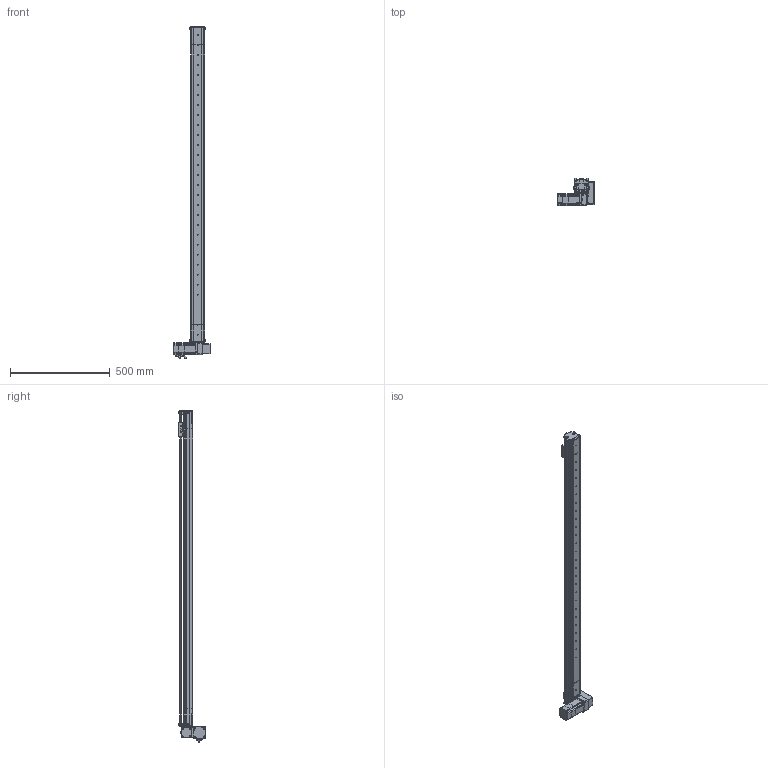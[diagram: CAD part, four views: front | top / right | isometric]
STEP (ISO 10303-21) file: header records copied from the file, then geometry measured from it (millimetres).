
FILE_DESCRIPTION (( 'STEP AP214' ), '1' );
FILE_NAME ('S07 TBN LU S1400.STEP', '2010-06-29T12:06:47', ( 'Conseil Régional Haute-Normandie' ), ( 'Conseil Régional Haute-Normandie' ), 'SwSTEP 2.0', 'SolidWorks 2010', '' );
FILE_SCHEMA (( 'AUTOMOTIVE_DESIGN' ));
Length unit declared in the file: millimetre
Products named in the file (41): Poulie head_Default; P3 90A_Default; P2 90A_Default; P1_Default; Couroie t皻e_Default; Pièce5^S07 LU(146); vis M5 L5_Default; GMB 60 90 310_Default; renvoi LU_Default; Plaque racord_Default; P4_Default; cache t皻e_Default; vis M5 L16_Default; Chariot; guide; CHariot_Default; couroie tail_Default; vis M5 L12_Default; Poulie_Default; T皻e de poulie_Default; S07 TB tail (78)_Default; Vis M5 L16-2_Default; Cvis M5 L30_Default; couvercle tail TB; plaque de bout_Default; corp tail TB_Default; VisM3_Default; Conecteur2 60BLDC_Default; Conecteur 60BLDC_Default; Axe 60BLDC_Default; S07 TBN LU S1400; Couroie  course 1400_Default; Corp S07 course 1400_Default; Course C L1400_Default; corp moteur TB(146)_Default; S07 LU(146)_Default; couvercle S07 course 1400 ; cache t皻e axe_Default; couvercle moteur S07 TB; plaque de bout LU_Default
Assembly tree (80 placements, depth 4):
  Pièce5^S07 LU(146)
  S07 TBN LU S1400
    CHariot_Default
      vis M5 L16_Default  x2
      Chariot
      guide
    Course C L1400_Default
      Corp S07 course 1400_Default
      Couroie  course 1400_Default
      couvercle S07 course 1400 
    S07 LU(146)_Default
      Vis M5 L16-2_Default  x8
      Poulie head_Default
      vis M5 L5_Default  x6
      Couroie t皻e_Default
      vis M5 L12_Default  x6
      corp moteur TB(146)_Default
      Cvis M5 L30_Default  x2
      cache t皻e_Default  x2
      couvercle moteur S07 TB
      plaque de bout LU_Default
      renvoi LU_Default
      GMB 60 90 310_Default
        P1_Default
        Conecteur2 60BLDC_Default
        VisM3_Default  x12
        P2 90A_Default
        Axe 60BLDC_Default
        P3 90A_Default
        Conecteur 60BLDC_Default
        P4_Default
      Plaque racord_Default
      cache t皻e axe_Default
    S07 TB tail (78)_Default
      couroie tail_Default
      vis M5 L12_Default  x10
      couvercle tail TB
      plaque de bout_Default
      corp tail TB_Default
      Poulie_Default
        Poulie_Default
        T皻e de poulie_Default
Bounding box: 190.2 x 134.7 x 1662 mm (x, y, z)
Volume: 3267717.3 mm3; surface area: 1425108.1 mm2
Topology: 102 solids, 102 shells, 3950 faces, 9834 edges, 6353 vertices
Faces by surface type: plane 2239, cylinder 781, bspline 677, cone 125, torus 124, sphere 4
Entity records: 168029 total; most frequent: CARTESIAN_POINT 75331, ORIENTED_EDGE 15580, DIRECTION 12459, EDGE_CURVE 7790, VERTEX_POINT 5141, LINE 5065, VECTOR 5065, AXIS2_PLACEMENT_3D 3697
